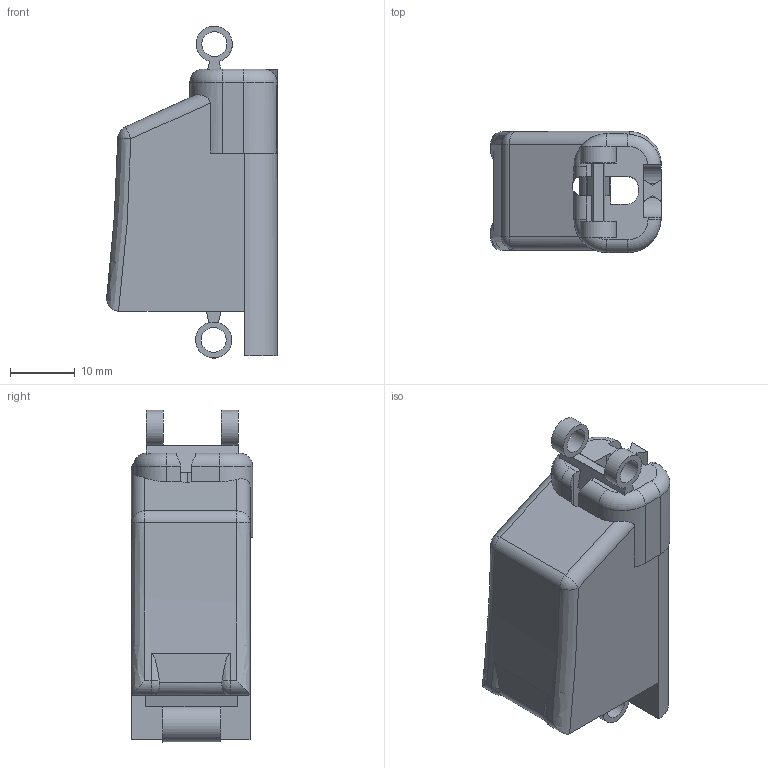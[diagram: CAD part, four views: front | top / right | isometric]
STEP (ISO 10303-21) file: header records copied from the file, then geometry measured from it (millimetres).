
FILE_DESCRIPTION(/* description */ ('STEP AP242 Edition 2','CAx-IF Rec.Pracs.---Representation and Presentation of Product Manufacturing Information (PMI)---4.0---2014-10-13','CAx-IF Rec.Pracs.---3D Tessellated Geometry---0.4---2014-09-14','2;1','CAx-IF Rec.Pracs.---User Defined Attributes---1.5---2016-08-15'),/* implementation_level */ '2;1');
FILE_NAME(/* name */ 'Main Assembly - Ring Mih',/* time_stamp */ '2026-06-22T17:37:59Z',/* author */ (''),/* organization */ (''),/* preprocessor_version */ 'ST-DEVELOPER v20',/* originating_system */ 'ONSHAPE BY PTC INC, 1.216',/* authorisation */ ' ');
FILE_SCHEMA (('AP242_MANAGED_MODEL_BASED_3D_ENGINEERING_MIM_LF { 1 0 10303 442 3 1 4 }'));
Length unit declared in the file: metre
Products named in the file (1): Ring Mih
Bounding box: 26.42 x 18.77 x 51.43 mm (x, y, z)
Volume: 14619.5 mm3; surface area: 5623.6 mm2
Topology: 1 solids, 1 shells, 120 faces, 342 edges, 217 vertices
Faces by surface type: plane 66, cylinder 35, torus 6, bspline 5, sphere 4, cone 4
Full cylindrical faces by diameter (mm): 3.865 x3
Entity records: 4011 total; most frequent: CARTESIAN_POINT 880, ORIENTED_EDGE 670, DIRECTION 630, EDGE_CURVE 335, VERTEX_POINT 217, AXIS2_PLACEMENT_3D 212, LINE 206, VECTOR 206
